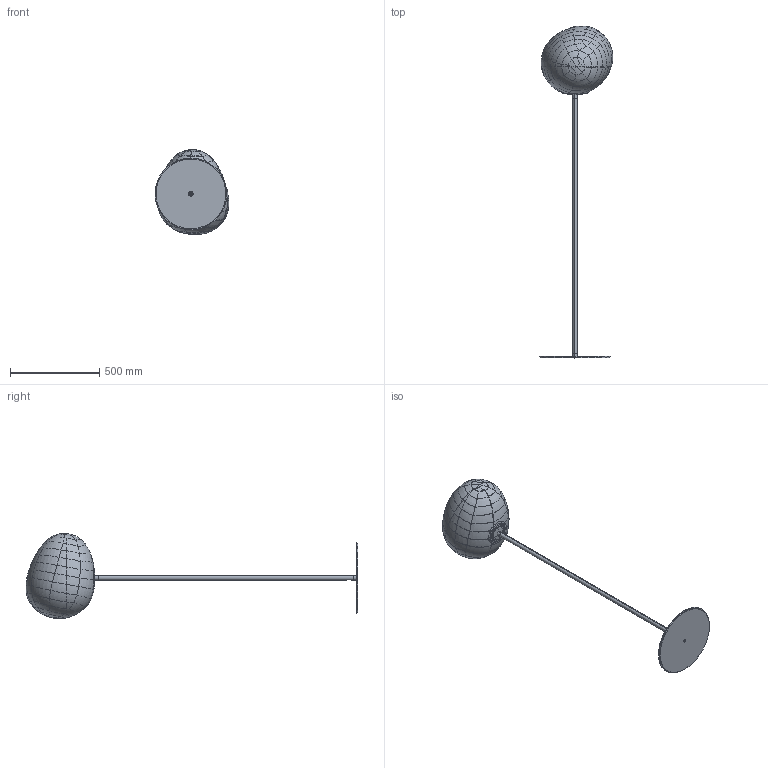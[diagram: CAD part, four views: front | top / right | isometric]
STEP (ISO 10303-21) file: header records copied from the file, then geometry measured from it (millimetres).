
FILE_DESCRIPTION (( 'STEP AP203' ), '1' );
FILE_NAME ('168_GRANDE_F_ME_3D.STEP', '2021-04-12T08:24:45', ( '' ), ( '' ), 'SwSTEP 2.0', 'SolidWorks 2021', '' );
FILE_SCHEMA (( 'CONFIG_CONTROL_DESIGN' ));
Products named in the file (1): 168_GRANDE_F_ME_3D
Bounding box: 411.84 x 1856.36 x 474.73 mm (x, y, z)
Volume: 2862793.3 mm3; surface area: 1845754.3 mm2
Topology: 6 solids, 6 shells, 1760 faces, 4338 edges, 2596 vertices
Faces by surface type: bspline 1010, cylinder 394, plane 233, cone 123
Entity records: 155837 total; most frequent: CARTESIAN_POINT 124494, ORIENTED_EDGE 8652, EDGE_CURVE 4326, B_SPLINE_CURVE_WITH_KNOTS 3305, VERTEX_POINT 2596, DIRECTION 2589, EDGE_LOOP 1810, FACE_OUTER_BOUND 1760
